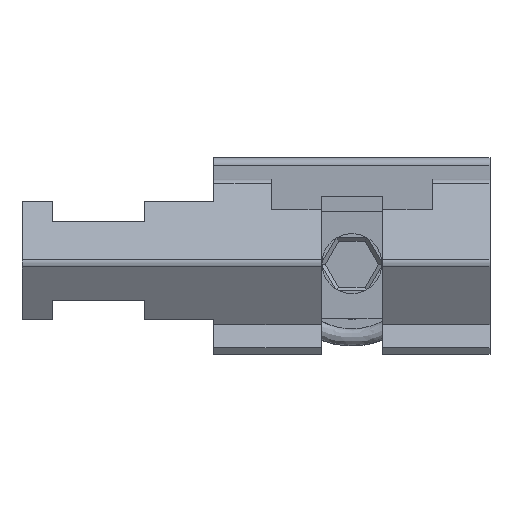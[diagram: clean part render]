
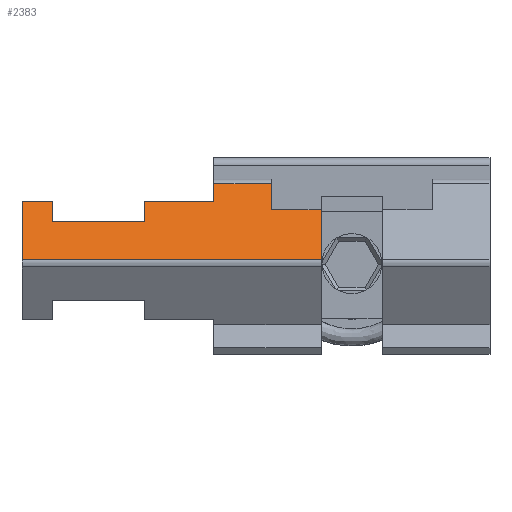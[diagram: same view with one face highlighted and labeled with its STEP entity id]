
A CAD part, top view. The second image highlights one B-rep face of the part: STEP entity #2383.
In plain terms, the highlighted planar face has unit normal (0, 0.414, 0.91).
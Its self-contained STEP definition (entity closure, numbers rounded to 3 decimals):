
#109 = EDGE_CURVE ( 'NONE', #2190, #5196, #974, .T. ) ;
#130 = VERTEX_POINT ( 'NONE', #4557 ) ;
#238 = DIRECTION ( 'NONE',  ( -1., 0., 0. ) ) ;
#326 = LINE ( 'NONE', #4296, #2975 ) ;
#478 = EDGE_CURVE ( 'NONE', #2588, #2648, #2294, .T. ) ;
#604 = VERTEX_POINT ( 'NONE', #5160 ) ;
#731 = CARTESIAN_POINT ( 'NONE',  ( -21.5, 3.575, 2.048 ) ) ;
#747 = DIRECTION ( 'NONE',  ( 0., 0.91, -0.414 ) ) ;
#765 = VERTEX_POINT ( 'NONE', #6301 ) ;
#768 = ORIENTED_EDGE ( 'NONE', *, *, #109, .F. ) ;
#820 = DIRECTION ( 'NONE',  ( 0., -0.414, -0.91 ) ) ;
#894 = VECTOR ( 'NONE', #238, 1000. ) ;
#904 = VECTOR ( 'NONE', #1814, 1000. ) ;
#974 = LINE ( 'NONE', #6718, #5071 ) ;
#1095 = LINE ( 'NONE', #6535, #6591 ) ;
#1112 = EDGE_CURVE ( 'NONE', #604, #5914, #2610, .T. ) ;
#1375 = ORIENTED_EDGE ( 'NONE', *, *, #5762, .T. ) ;
#1407 = ORIENTED_EDGE ( 'NONE', *, *, #3797, .F. ) ;
#1428 = CARTESIAN_POINT ( 'NONE',  ( -2., -0.256, 3.789 ) ) ;
#1479 = VERTEX_POINT ( 'NONE', #6791 ) ;
#1575 = ORIENTED_EDGE ( 'NONE', *, *, #1112, .T. ) ;
#1750 = EDGE_LOOP ( 'NONE', ( #3588, #1575, #5846, #768, #1407, #3604, #5380, #4116, #1375, #4626, #3947, #4605 ) ) ;
#1814 = DIRECTION ( 'NONE',  ( 0., 0.91, -0.414 ) ) ;
#1882 = CARTESIAN_POINT ( 'NONE',  ( 9., -0.256, 3.789 ) ) ;
#2087 = DIRECTION ( 'NONE',  ( -1., 0., 0. ) ) ;
#2186 = DIRECTION ( 'NONE',  ( 0., -0.91, 0.414 ) ) ;
#2190 = VERTEX_POINT ( 'NONE', #731 ) ;
#2265 = EDGE_CURVE ( 'NONE', #5914, #5196, #3461, .T. ) ;
#2294 = LINE ( 'NONE', #1882, #894 ) ;
#2301 = CARTESIAN_POINT ( 'NONE',  ( -21.5, 3.575, 2.048 ) ) ;
#2333 = CARTESIAN_POINT ( 'NONE',  ( -19.5, 4.707, 1.533 ) ) ;
#2383 = ADVANCED_FACE ( 'NONE', ( #3331 ), #4006, .F. ) ;
#2559 = LINE ( 'NONE', #6839, #5252 ) ;
#2579 = AXIS2_PLACEMENT_3D ( 'NONE', #6657, #820, #4543 ) ;
#2588 = VERTEX_POINT ( 'NONE', #1428 ) ;
#2610 = LINE ( 'NONE', #3715, #3892 ) ;
#2648 = VERTEX_POINT ( 'NONE', #3593 ) ;
#2875 = DIRECTION ( 'NONE',  ( 0., 0.91, -0.414 ) ) ;
#2975 = VECTOR ( 'NONE', #4831, 1000. ) ;
#2983 = VECTOR ( 'NONE', #6040, 1000. ) ;
#3074 = DIRECTION ( 'NONE',  ( 1., 0., 0. ) ) ;
#3170 = VECTOR ( 'NONE', #2186, 1000. ) ;
#3205 = EDGE_CURVE ( 'NONE', #3852, #130, #6905, .T. ) ;
#3254 = LINE ( 'NONE', #3940, #3419 ) ;
#3308 = EDGE_CURVE ( 'NONE', #2588, #765, #3738, .T. ) ;
#3331 = FACE_OUTER_BOUND ( 'NONE', #1750, .T. ) ;
#3419 = VECTOR ( 'NONE', #747, 1000. ) ;
#3461 = LINE ( 'NONE', #2333, #4887 ) ;
#3490 = VERTEX_POINT ( 'NONE', #5183 ) ;
#3588 = ORIENTED_EDGE ( 'NONE', *, *, #4965, .F. ) ;
#3593 = CARTESIAN_POINT ( 'NONE',  ( -21.5, -0.256, 3.789 ) ) ;
#3604 = ORIENTED_EDGE ( 'NONE', *, *, #478, .F. ) ;
#3715 = CARTESIAN_POINT ( 'NONE',  ( 9., 2.21, 2.668 ) ) ;
#3738 = LINE ( 'NONE', #3977, #904 ) ;
#3797 = EDGE_CURVE ( 'NONE', #2648, #2190, #326, .T. ) ;
#3852 = VERTEX_POINT ( 'NONE', #5502 ) ;
#3892 = VECTOR ( 'NONE', #2087, 1000. ) ;
#3934 = EDGE_CURVE ( 'NONE', #765, #1479, #5481, .T. ) ;
#3940 = CARTESIAN_POINT ( 'NONE',  ( -5.25, 2.425, 2.57 ) ) ;
#3947 = ORIENTED_EDGE ( 'NONE', *, *, #4805, .T. ) ;
#3977 = CARTESIAN_POINT ( 'NONE',  ( -2., -3.376, 5.207 ) ) ;
#4006 = PLANE ( 'NONE',  #2579 ) ;
#4116 = ORIENTED_EDGE ( 'NONE', *, *, #3934, .T. ) ;
#4235 = CARTESIAN_POINT ( 'NONE',  ( -9., 4.707, 1.533 ) ) ;
#4296 = CARTESIAN_POINT ( 'NONE',  ( -21.5, 3.575, 2.048 ) ) ;
#4332 = CARTESIAN_POINT ( 'NONE',  ( -9., 4.707, 1.533 ) ) ;
#4484 = CARTESIAN_POINT ( 'NONE',  ( -2., 3., 2.309 ) ) ;
#4543 = DIRECTION ( 'NONE',  ( 0., 0.91, -0.414 ) ) ;
#4557 = CARTESIAN_POINT ( 'NONE',  ( -9., 3.575, 2.048 ) ) ;
#4599 = LINE ( 'NONE', #4332, #3170 ) ;
#4605 = ORIENTED_EDGE ( 'NONE', *, *, #3205, .F. ) ;
#4626 = ORIENTED_EDGE ( 'NONE', *, *, #5289, .T. ) ;
#4805 = EDGE_CURVE ( 'NONE', #5360, #130, #4599, .T. ) ;
#4831 = DIRECTION ( 'NONE',  ( 0., 0.91, -0.414 ) ) ;
#4887 = VECTOR ( 'NONE', #2875, 1000. ) ;
#4961 = DIRECTION ( 'NONE',  ( 0., 0.91, -0.414 ) ) ;
#4965 = EDGE_CURVE ( 'NONE', #604, #3852, #1095, .T. ) ;
#5024 = DIRECTION ( 'NONE',  ( -1., 0., 0. ) ) ;
#5071 = VECTOR ( 'NONE', #3074, 1000. ) ;
#5105 = CARTESIAN_POINT ( 'NONE',  ( -19.5, 3.575, 2.048 ) ) ;
#5160 = CARTESIAN_POINT ( 'NONE',  ( -13.5, 2.21, 2.668 ) ) ;
#5183 = CARTESIAN_POINT ( 'NONE',  ( -5.25, 4.707, 1.533 ) ) ;
#5196 = VERTEX_POINT ( 'NONE', #5105 ) ;
#5232 = DIRECTION ( 'NONE',  ( -1., 0., 0. ) ) ;
#5252 = VECTOR ( 'NONE', #5232, 1000. ) ;
#5289 = EDGE_CURVE ( 'NONE', #3490, #5360, #2559, .T. ) ;
#5360 = VERTEX_POINT ( 'NONE', #4235 ) ;
#5380 = ORIENTED_EDGE ( 'NONE', *, *, #3308, .T. ) ;
#5481 = LINE ( 'NONE', #4484, #6730 ) ;
#5502 = CARTESIAN_POINT ( 'NONE',  ( -13.5, 3.575, 2.048 ) ) ;
#5762 = EDGE_CURVE ( 'NONE', #1479, #3490, #3254, .T. ) ;
#5846 = ORIENTED_EDGE ( 'NONE', *, *, #2265, .T. ) ;
#5914 = VERTEX_POINT ( 'NONE', #6654 ) ;
#6040 = DIRECTION ( 'NONE',  ( 1., 0., 0. ) ) ;
#6301 = CARTESIAN_POINT ( 'NONE',  ( -2., 3., 2.309 ) ) ;
#6535 = CARTESIAN_POINT ( 'NONE',  ( -13.5, 4.707, 1.533 ) ) ;
#6591 = VECTOR ( 'NONE', #4961, 1000. ) ;
#6654 = CARTESIAN_POINT ( 'NONE',  ( -19.5, 2.21, 2.668 ) ) ;
#6657 = CARTESIAN_POINT ( 'NONE',  ( 9., 4.707, 1.533 ) ) ;
#6718 = CARTESIAN_POINT ( 'NONE',  ( -21.5, 3.575, 2.048 ) ) ;
#6730 = VECTOR ( 'NONE', #5024, 1000. ) ;
#6791 = CARTESIAN_POINT ( 'NONE',  ( -5.25, 3., 2.309 ) ) ;
#6839 = CARTESIAN_POINT ( 'NONE',  ( 9., 4.707, 1.533 ) ) ;
#6905 = LINE ( 'NONE', #2301, #2983 ) ;
